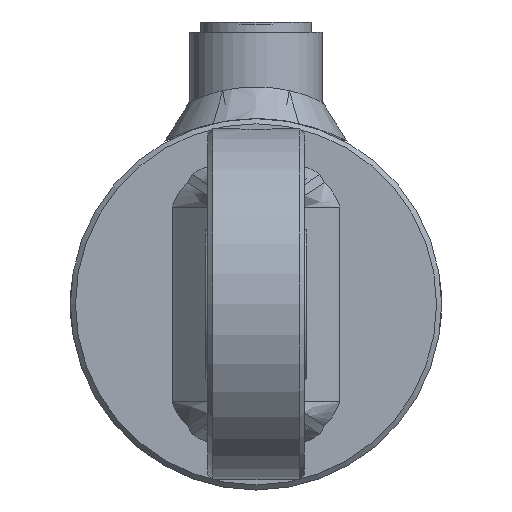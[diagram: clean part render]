
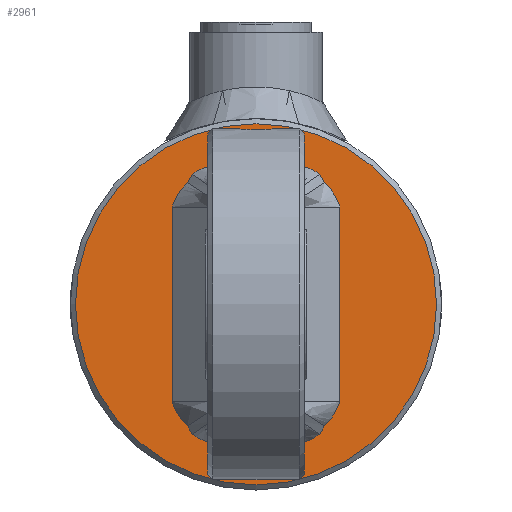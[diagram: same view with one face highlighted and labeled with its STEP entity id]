
A CAD part, left-side view. The second image highlights one B-rep face of the part: STEP entity #2961.
In plain terms, the highlighted planar face has unit normal (-1, 0, 0).
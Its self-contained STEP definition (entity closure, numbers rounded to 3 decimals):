
#2961 = ADVANCED_FACE( '', ( #8743 ), #8744, .T. );
#8743 = FACE_OUTER_BOUND( '', #10698, .T. );
#8744 = PLANE( '', #10699 );
#10698 = EDGE_LOOP( '', ( #11698 ) );
#10699 = AXIS2_PLACEMENT_3D( '', #11699, #11700, #11701 );
#11698 = ORIENTED_EDGE( '', *, *, #13048, .T. );
#11699 = CARTESIAN_POINT( '', ( -12., 0., 0. ) );
#11700 = DIRECTION( '', ( -1., 0., 0. ) );
#11701 = DIRECTION( '', ( 0., -1., 0. ) );
#13048 = EDGE_CURVE( '', #16503, #16503, #16504, .T. );
#16503 = VERTEX_POINT( '', #17356 );
#16504 = CIRCLE( '', #17357, 35.5 );
#17356 = CARTESIAN_POINT( '', ( -12., -35.5, 0. ) );
#17357 = AXIS2_PLACEMENT_3D( '', #17492, #17493, #17494 );
#17492 = CARTESIAN_POINT( '', ( -12., 0., 0. ) );
#17493 = DIRECTION( '', ( -1., 0., 0. ) );
#17494 = DIRECTION( '', ( 0., -1., 0. ) );
